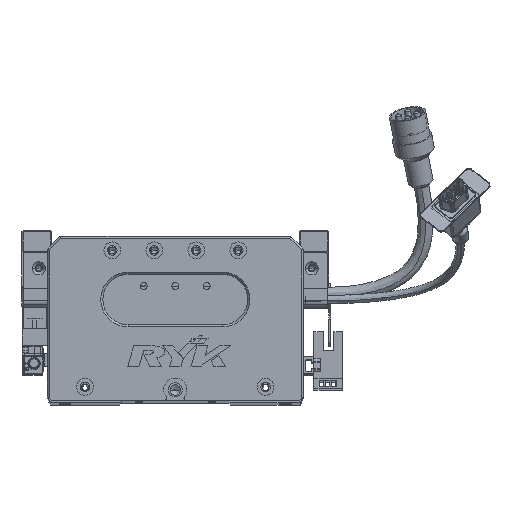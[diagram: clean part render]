
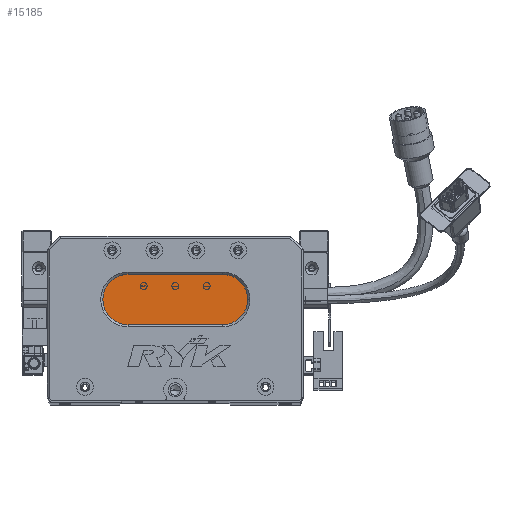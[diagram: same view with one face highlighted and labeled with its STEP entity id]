
A CAD part, top view. The second image highlights one B-rep face of the part: STEP entity #15185.
In plain terms, the highlighted planar face has unit normal (0, 0, 1) as drawn and (0, 0, -1) by its records, which use the part's own axes.
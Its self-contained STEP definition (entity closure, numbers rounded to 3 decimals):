
#2677 = PLANE ( 'NONE',  #20561 ) ;
#7061 = DIRECTION ( 'NONE',  ( 0., 0., -1. ) ) ;
#8386 = DIRECTION ( 'NONE',  ( -1., 0., 0. ) ) ;
#8555 = LINE ( 'NONE', #64501, #56001 ) ;
#9131 = CARTESIAN_POINT ( 'NONE',  ( 83.5, 48., 13. ) ) ;
#9792 = VECTOR ( 'NONE', #63404, 1000. ) ;
#10305 = VERTEX_POINT ( 'NONE', #17431 ) ;
#11718 = ORIENTED_EDGE ( 'NONE', *, *, #27207, .T. ) ;
#11846 = DIRECTION ( 'NONE',  ( -1., 0., 0. ) ) ;
#15185 = ADVANCED_FACE ( 'NONE', ( #43909 ), #2677, .T. ) ;
#17431 = CARTESIAN_POINT ( 'NONE',  ( 83.5, 60., 13. ) ) ;
#20561 = AXIS2_PLACEMENT_3D ( 'NONE', #9131, #32830, #8386 ) ;
#21363 = AXIS2_PLACEMENT_3D ( 'NONE', #54618, #7061, #48149 ) ;
#23183 = CIRCLE ( 'NONE', #21363, 12. ) ;
#24943 = CIRCLE ( 'NONE', #61016, 12. ) ;
#26278 = CARTESIAN_POINT ( 'NONE',  ( 38.5, 36., 13. ) ) ;
#27207 = EDGE_CURVE ( 'NONE', #43852, #47265, #54006, .T. ) ;
#27842 = ORIENTED_EDGE ( 'NONE', *, *, #50131, .T. ) ;
#29391 = VERTEX_POINT ( 'NONE', #76360 ) ;
#29985 = CARTESIAN_POINT ( 'NONE',  ( 83.5, 48., 13. ) ) ;
#32830 = DIRECTION ( 'NONE',  ( 0., 0., -1. ) ) ;
#37192 = CARTESIAN_POINT ( 'NONE',  ( 26.5, 48., 13. ) ) ;
#40886 = DIRECTION ( 'NONE',  ( 1., 0., 0. ) ) ;
#41463 = DIRECTION ( 'NONE',  ( 0., 0., -1. ) ) ;
#41466 = LINE ( 'NONE', #54869, #9792 ) ;
#42542 = CARTESIAN_POINT ( 'NONE',  ( 38.5, 60., 13. ) ) ;
#43852 = VERTEX_POINT ( 'NONE', #26278 ) ;
#43909 = FACE_OUTER_BOUND ( 'NONE', #73475, .T. ) ;
#47265 = VERTEX_POINT ( 'NONE', #37192 ) ;
#48149 = DIRECTION ( 'NONE',  ( -1., 0., 0. ) ) ;
#49955 = ORIENTED_EDGE ( 'NONE', *, *, #69329, .T. ) ;
#50131 = EDGE_CURVE ( 'NONE', #47265, #72406, #23183, .T. ) ;
#54006 = CIRCLE ( 'NONE', #62041, 12. ) ;
#54618 = CARTESIAN_POINT ( 'NONE',  ( 38.5, 48., 13. ) ) ;
#54869 = CARTESIAN_POINT ( 'NONE',  ( 83.5, 36., 13. ) ) ;
#56001 = VECTOR ( 'NONE', #40886, 1000. ) ;
#56366 = ORIENTED_EDGE ( 'NONE', *, *, #72175, .T. ) ;
#57935 = EDGE_CURVE ( 'NONE', #72406, #10305, #8555, .T. ) ;
#59356 = CARTESIAN_POINT ( 'NONE',  ( 38.5, 48., 13. ) ) ;
#61016 = AXIS2_PLACEMENT_3D ( 'NONE', #29985, #70540, #71570 ) ;
#62041 = AXIS2_PLACEMENT_3D ( 'NONE', #59356, #41463, #11846 ) ;
#63404 = DIRECTION ( 'NONE',  ( -1., 0., 0. ) ) ;
#64501 = CARTESIAN_POINT ( 'NONE',  ( 83.5, 60., 13. ) ) ;
#69329 = EDGE_CURVE ( 'NONE', #10305, #29391, #24943, .T. ) ;
#70540 = DIRECTION ( 'NONE',  ( 0., 0., -1. ) ) ;
#71570 = DIRECTION ( 'NONE',  ( -1., 0., 0. ) ) ;
#72175 = EDGE_CURVE ( 'NONE', #29391, #43852, #41466, .T. ) ;
#72406 = VERTEX_POINT ( 'NONE', #42542 ) ;
#73475 = EDGE_LOOP ( 'NONE', ( #49955, #56366, #11718, #27842, #74418 ) ) ;
#74418 = ORIENTED_EDGE ( 'NONE', *, *, #57935, .T. ) ;
#76360 = CARTESIAN_POINT ( 'NONE',  ( 83.5, 36., 13. ) ) ;
